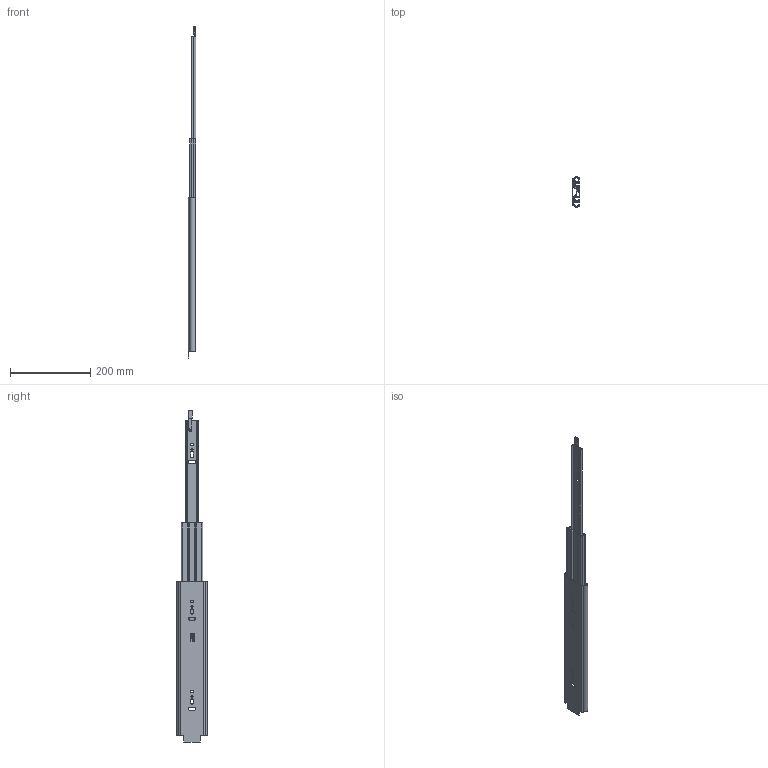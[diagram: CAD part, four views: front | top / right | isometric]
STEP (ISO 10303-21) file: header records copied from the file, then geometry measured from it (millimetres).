
FILE_DESCRIPTION (( 'STEP AP214' ), '1' );
FILE_NAME ('DSCHHD400MML-OPEN.STEP', '2018-11-29T14:04:21', ( '' ), ( '' ), 'SwSTEP 2.0', 'SolidWorks 2017', '' );
FILE_SCHEMA (( 'AUTOMOTIVE_DESIGN' ));
Length unit declared in the file: millimetre
Products named in the file (5): DSCHHDL-2_400; DSCHHD400MML-OPEN; DSCHHDL-4; DSCHHDL-1_400; DSCHHDL-3_400
Assembly tree (4 placements, depth 2):
  DSCHHD400MML-OPEN
    DSCHHDL-3_400
    DSCHHDL-2_400
    DSCHHDL-1_400
    DSCHHDL-4
Bounding box: 19.4 x 75.28 x 826.1 mm (x, y, z)
Volume: 198658.2 mm3; surface area: 205238.1 mm2
Topology: 4 solids, 4 shells, 805 faces, 2177 edges, 1442 vertices
Faces by surface type: plane 460, bspline 237, cylinder 100, torus 4, sphere 4
Entity records: 27197 total; most frequent: CARTESIAN_POINT 7856, ORIENTED_EDGE 4346, DIRECTION 3055, EDGE_CURVE 2173, LINE 1493, VECTOR 1493, VERTEX_POINT 1442, EDGE_LOOP 907
